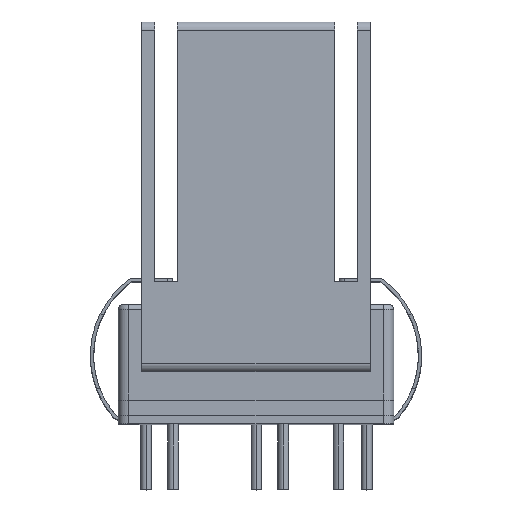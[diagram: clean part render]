
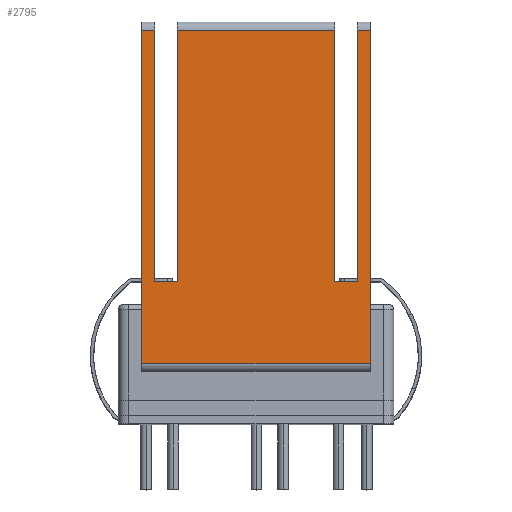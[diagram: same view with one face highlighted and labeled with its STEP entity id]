
A CAD part, top view. The second image highlights one B-rep face of the part: STEP entity #2795.
In plain terms, the highlighted planar face has unit normal (0, 0, 1) as drawn and (-1, 0, 0) by its records, which use the part's own axes.
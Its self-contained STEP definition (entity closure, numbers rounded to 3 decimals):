
#112 = EDGE_CURVE ( 'NONE', #6058, #7953, #12507, .T. ) ;
#277 = LINE ( 'NONE', #11163, #12933 ) ;
#573 = CARTESIAN_POINT ( 'NONE',  ( -27.5, 24.65, 10.5 ) ) ;
#1109 = ORIENTED_EDGE ( 'NONE', *, *, #5518, .T. ) ;
#1192 = CARTESIAN_POINT ( 'NONE',  ( -27.5, 24.65, 7.25 ) ) ;
#1419 = CARTESIAN_POINT ( 'NONE',  ( -27.5, 1.5, 9.3 ) ) ;
#1722 = CARTESIAN_POINT ( 'NONE',  ( -27.5, -6.05, 10.5 ) ) ;
#1852 = CARTESIAN_POINT ( 'NONE',  ( -27.5, 24.65, 10.5 ) ) ;
#1971 = VECTOR ( 'NONE', #15208, 1000. ) ;
#2044 = VERTEX_POINT ( 'NONE', #5983 ) ;
#2307 = CARTESIAN_POINT ( 'NONE',  ( -27.5, 1.5, -7.25 ) ) ;
#2329 = CARTESIAN_POINT ( 'NONE',  ( -27.5, 1.5, -9.3 ) ) ;
#2471 = VECTOR ( 'NONE', #9713, 1000. ) ;
#2493 = EDGE_CURVE ( 'NONE', #8696, #8063, #8237, .T. ) ;
#2567 = VECTOR ( 'NONE', #5652, 1000. ) ;
#2757 = LINE ( 'NONE', #7555, #15389 ) ;
#2795 = ADVANCED_FACE ( 'NONE', ( #3887 ), #8612, .F. ) ;
#2796 = VECTOR ( 'NONE', #7853, 1000. ) ;
#3469 = VERTEX_POINT ( 'NONE', #15217 ) ;
#3871 = CARTESIAN_POINT ( 'NONE',  ( -27.5, -6.05, 10.5 ) ) ;
#3887 = FACE_OUTER_BOUND ( 'NONE', #11960, .T. ) ;
#3898 = DIRECTION ( 'NONE',  ( 0., 1., 0. ) ) ;
#3948 = LINE ( 'NONE', #7497, #2471 ) ;
#4009 = EDGE_CURVE ( 'NONE', #12108, #8696, #3948, .T. ) ;
#4108 = LINE ( 'NONE', #9793, #10999 ) ;
#4134 = LINE ( 'NONE', #10211, #2796 ) ;
#4907 = DIRECTION ( 'NONE',  ( 0., 1., 0. ) ) ;
#5131 = CARTESIAN_POINT ( 'NONE',  ( -27.5, 1.5, 9.3 ) ) ;
#5246 = CARTESIAN_POINT ( 'NONE',  ( -27.5, 25.4, 9.3 ) ) ;
#5518 = EDGE_CURVE ( 'NONE', #8063, #10973, #6094, .T. ) ;
#5567 = CARTESIAN_POINT ( 'NONE',  ( -27.5, 24.65, -7.25 ) ) ;
#5587 = VECTOR ( 'NONE', #10178, 1000. ) ;
#5652 = DIRECTION ( 'NONE',  ( 0., -1., 0. ) ) ;
#5665 = EDGE_CURVE ( 'NONE', #3469, #7953, #4108, .T. ) ;
#5983 = CARTESIAN_POINT ( 'NONE',  ( -27.5, 24.65, -9.3 ) ) ;
#6058 = VERTEX_POINT ( 'NONE', #3871 ) ;
#6094 = LINE ( 'NONE', #2329, #10756 ) ;
#6391 = DIRECTION ( 'NONE',  ( 1., 0., 0. ) ) ;
#6759 = VECTOR ( 'NONE', #12378, 1000. ) ;
#6880 = VERTEX_POINT ( 'NONE', #11946 ) ;
#7278 = ORIENTED_EDGE ( 'NONE', *, *, #112, .F. ) ;
#7343 = DIRECTION ( 'NONE',  ( 0., -1., 0. ) ) ;
#7497 = CARTESIAN_POINT ( 'NONE',  ( -27.5, 24.65, 10.5 ) ) ;
#7555 = CARTESIAN_POINT ( 'NONE',  ( -27.5, 25.4, 7.25 ) ) ;
#7853 = DIRECTION ( 'NONE',  ( 0., 0., -1. ) ) ;
#7920 = VERTEX_POINT ( 'NONE', #5131 ) ;
#7953 = VERTEX_POINT ( 'NONE', #12619 ) ;
#8060 = ORIENTED_EDGE ( 'NONE', *, *, #2493, .T. ) ;
#8063 = VERTEX_POINT ( 'NONE', #2307 ) ;
#8195 = EDGE_CURVE ( 'NONE', #7920, #6880, #9849, .T. ) ;
#8237 = LINE ( 'NONE', #13064, #2567 ) ;
#8612 = PLANE ( 'NONE',  #10847 ) ;
#8696 = VERTEX_POINT ( 'NONE', #5567 ) ;
#8797 = DIRECTION ( 'NONE',  ( 0., -1., 0. ) ) ;
#9713 = DIRECTION ( 'NONE',  ( 0., 0., -1. ) ) ;
#9793 = CARTESIAN_POINT ( 'NONE',  ( -27.5, 24.65, -10.5 ) ) ;
#9849 = LINE ( 'NONE', #1419, #6759 ) ;
#9883 = CARTESIAN_POINT ( 'NONE',  ( -27.5, 24.65, 9.3 ) ) ;
#9935 = DIRECTION ( 'NONE',  ( 0., -1., 0. ) ) ;
#10008 = CARTESIAN_POINT ( 'NONE',  ( -27.5, 24.65, 10.5 ) ) ;
#10148 = ORIENTED_EDGE ( 'NONE', *, *, #10351, .T. ) ;
#10178 = DIRECTION ( 'NONE',  ( 0., 0., -1. ) ) ;
#10211 = CARTESIAN_POINT ( 'NONE',  ( -27.5, 24.65, 10.5 ) ) ;
#10351 = EDGE_CURVE ( 'NONE', #10973, #2044, #277, .T. ) ;
#10575 = CARTESIAN_POINT ( 'NONE',  ( -27.5, 1.5, -9.3 ) ) ;
#10652 = EDGE_CURVE ( 'NONE', #11614, #6058, #14544, .T. ) ;
#10753 = DIRECTION ( 'NONE',  ( 0., 0., -1. ) ) ;
#10756 = VECTOR ( 'NONE', #10753, 1000. ) ;
#10847 = AXIS2_PLACEMENT_3D ( 'NONE', #11211, #6391, #4907 ) ;
#10870 = VECTOR ( 'NONE', #8797, 1000. ) ;
#10973 = VERTEX_POINT ( 'NONE', #10575 ) ;
#10999 = VECTOR ( 'NONE', #9935, 1000. ) ;
#11163 = CARTESIAN_POINT ( 'NONE',  ( -27.5, 25.4, -9.3 ) ) ;
#11211 = CARTESIAN_POINT ( 'NONE',  ( -27.5, 24.65, 10.5 ) ) ;
#11429 = ORIENTED_EDGE ( 'NONE', *, *, #13864, .T. ) ;
#11583 = ORIENTED_EDGE ( 'NONE', *, *, #8195, .T. ) ;
#11614 = VERTEX_POINT ( 'NONE', #1852 ) ;
#11626 = ORIENTED_EDGE ( 'NONE', *, *, #14725, .T. ) ;
#11946 = CARTESIAN_POINT ( 'NONE',  ( -27.5, 1.5, 7.25 ) ) ;
#11960 = EDGE_LOOP ( 'NONE', ( #11429, #13274, #11583, #12229, #13895, #8060, #1109, #10148, #11626, #14671, #7278, #13522 ) ) ;
#12108 = VERTEX_POINT ( 'NONE', #1192 ) ;
#12229 = ORIENTED_EDGE ( 'NONE', *, *, #13023, .T. ) ;
#12373 = DIRECTION ( 'NONE',  ( 0., 1., 0. ) ) ;
#12378 = DIRECTION ( 'NONE',  ( 0., 0., -1. ) ) ;
#12507 = LINE ( 'NONE', #1722, #1971 ) ;
#12538 = LINE ( 'NONE', #573, #5587 ) ;
#12619 = CARTESIAN_POINT ( 'NONE',  ( -27.5, -6.05, -10.5 ) ) ;
#12781 = VERTEX_POINT ( 'NONE', #9883 ) ;
#12933 = VECTOR ( 'NONE', #3898, 1000. ) ;
#13023 = EDGE_CURVE ( 'NONE', #6880, #12108, #2757, .T. ) ;
#13064 = CARTESIAN_POINT ( 'NONE',  ( -27.5, 25.4, -7.25 ) ) ;
#13274 = ORIENTED_EDGE ( 'NONE', *, *, #13915, .T. ) ;
#13522 = ORIENTED_EDGE ( 'NONE', *, *, #10652, .F. ) ;
#13625 = LINE ( 'NONE', #5246, #10870 ) ;
#13864 = EDGE_CURVE ( 'NONE', #11614, #12781, #4134, .T. ) ;
#13895 = ORIENTED_EDGE ( 'NONE', *, *, #4009, .T. ) ;
#13915 = EDGE_CURVE ( 'NONE', #12781, #7920, #13625, .T. ) ;
#14543 = VECTOR ( 'NONE', #7343, 1000. ) ;
#14544 = LINE ( 'NONE', #10008, #14543 ) ;
#14671 = ORIENTED_EDGE ( 'NONE', *, *, #5665, .T. ) ;
#14725 = EDGE_CURVE ( 'NONE', #2044, #3469, #12538, .T. ) ;
#15208 = DIRECTION ( 'NONE',  ( 0., 0., -1. ) ) ;
#15217 = CARTESIAN_POINT ( 'NONE',  ( -27.5, 24.65, -10.5 ) ) ;
#15389 = VECTOR ( 'NONE', #12373, 1000. ) ;
